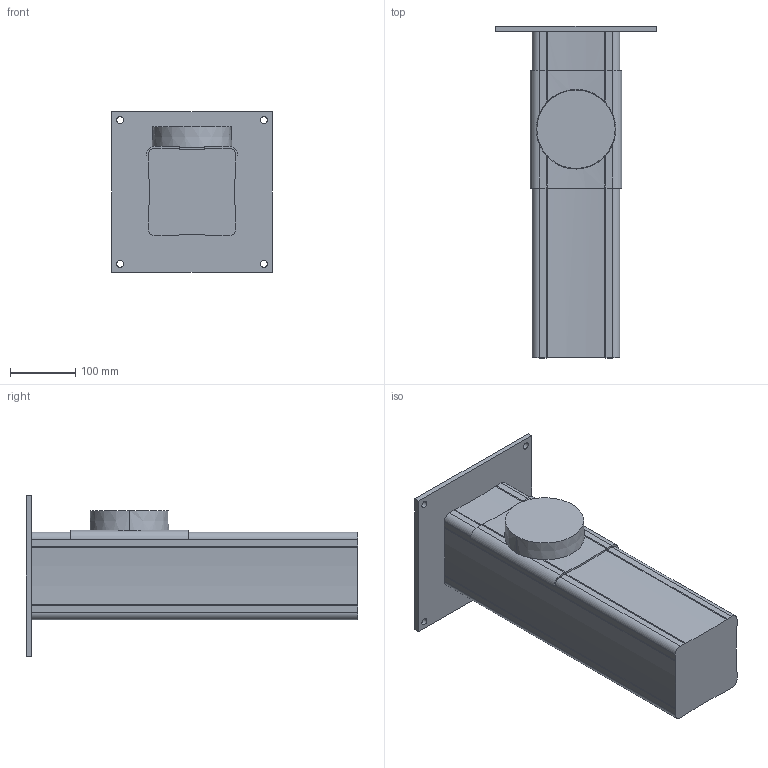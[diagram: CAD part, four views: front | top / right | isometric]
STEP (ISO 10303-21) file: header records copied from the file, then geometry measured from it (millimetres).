
FILE_DESCRIPTION((''),'2;1');
FILE_NAME('MTI500-125','2015-12-02T',('Tomas Bellgran'),(''),'PRO/ENGINEER BY PARAMETRIC TECHNOLOGY CORPORATION, 2013410','PRO/ENGINEER BY PARAMETRIC TECHNOLOGY CORPORATION, 2013410','');
FILE_SCHEMA(('AUTOMOTIVE_DESIGN { 1 0 10303 214 1 1 1 1 }'));
Length unit declared in the file: millimetre
Products named in the file (6): 100560; 100731; G_MTI_SPIGOT_100; G_MTI_SPIGOT_100_TPE; 101330; MTI500-125
Assembly tree (5 placements, depth 3):
  MTI500-125
    100560
    100731
    101330
      G_MTI_SPIGOT_100
      G_MTI_SPIGOT_100_TPE
Bounding box: 245 x 508 x 245 mm (x, y, z)
Volume: 8904034.8 mm3; surface area: 526397 mm2
Topology: 4 solids, 4 shells, 92 faces, 252 edges, 166 vertices
Faces by surface type: cylinder 52, plane 30, bspline 8, cone 2
Entity records: 13015 total; most frequent: CARTESIAN_POINT 8752, DIRECTION 514, ORIENTED_EDGE 504, PROPERTY_DEFINITION 255, EDGE_CURVE 252, REPRESENTATION 251, PROPERTY_DEFINITION_REPRESENTATION 251, DESCRIPTIVE_REPRESENTATION_ITEM 209
